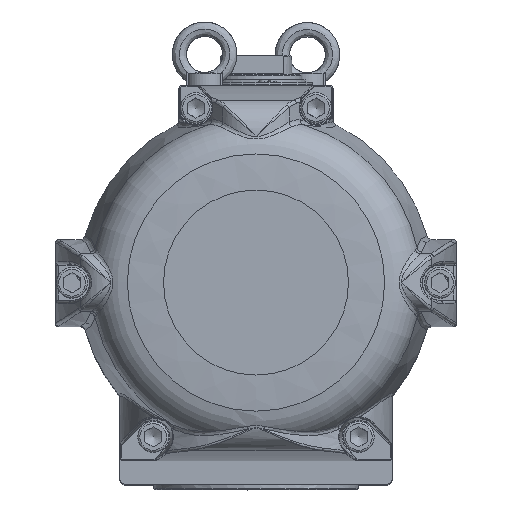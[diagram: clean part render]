
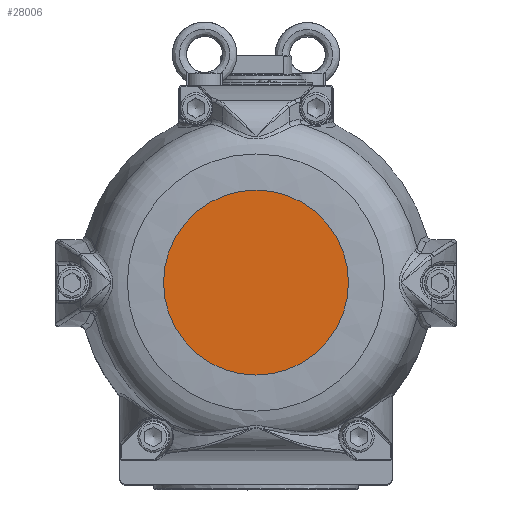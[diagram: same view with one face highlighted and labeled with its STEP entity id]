
A CAD part, top view. The second image highlights one B-rep face of the part: STEP entity #28006.
In plain terms, the highlighted planar face has unit normal (0, 0, 1).
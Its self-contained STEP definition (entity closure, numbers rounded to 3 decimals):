
#2555=PLANE('',#30638);
#4004=FACE_OUTER_BOUND('',#5646,.T.);
#5646=EDGE_LOOP('',(#23217));
#7252=CIRCLE('',#30639,90.);
#11933=VERTEX_POINT('',#69310);
#15815=EDGE_CURVE('',#11933,#11933,#7252,.T.);
#23217=ORIENTED_EDGE('',*,*,#15815,.F.);
#28006=ADVANCED_FACE('',(#4004),#2555,.T.);
#30638=AXIS2_PLACEMENT_3D('',#69309,#36603,#36604);
#30639=AXIS2_PLACEMENT_3D('',#69311,#36605,#36606);
#36603=DIRECTION('center_axis',(0.,0.,
1.));
#36604=DIRECTION('ref_axis',(0.,-1.,0.));
#36605=DIRECTION('center_axis',(0.,0.,
-1.));
#36606=DIRECTION('ref_axis',(-1.,0.,0.));
#69309=CARTESIAN_POINT('Origin',(-45.,0.,
411.5));
#69310=CARTESIAN_POINT('',(0.,-90.,411.5));
#69311=CARTESIAN_POINT('Origin',(0.,0.,
411.5));
